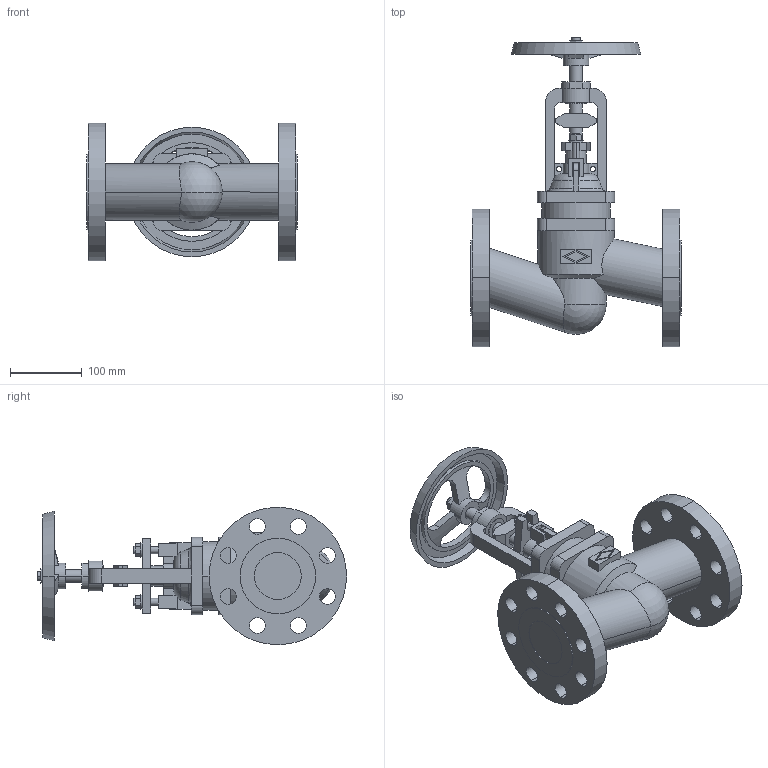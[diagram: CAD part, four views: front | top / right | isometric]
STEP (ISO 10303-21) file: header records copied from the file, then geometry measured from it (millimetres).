
FILE_DESCRIPTION(('OneSpaceDesigner STEP Export'),'2;1');
FILE_NAME('c000004216.stp','2010-04-30T 9:45:25',(''),(''),'OneSpace Designer STEP processor for AP214 (Solid Model)','OneSpace Modeling 15.50B 03-Nov-2007 (C) CoCreate Software GmbH','');
FILE_SCHEMA(('AUTOMOTIVE_DESIGN { 1 0 10303 214 1 1 1 1 }'));
Length unit declared in the file: millimetre
Products named in the file (1): 1
Bounding box: 292 x 429.4 x 191 mm (x, y, z)
Volume: 4008034.5 mm3; surface area: 383499.7 mm2
Topology: 1 solids, 1 shells, 305 faces, 817 edges, 536 vertices
Faces by surface type: plane 148, cylinder 123, cone 20, torus 12, sphere 2
Entity records: 12292 total; most frequent: CARTESIAN_POINT 2586, ORIENTED_EDGE 1630, DIRECTION 1321, EDGE_CURVE 815, VERTEX_POINT 536, AXIS2_PLACEMENT_3D 444, VECTOR 433, LINE 433
